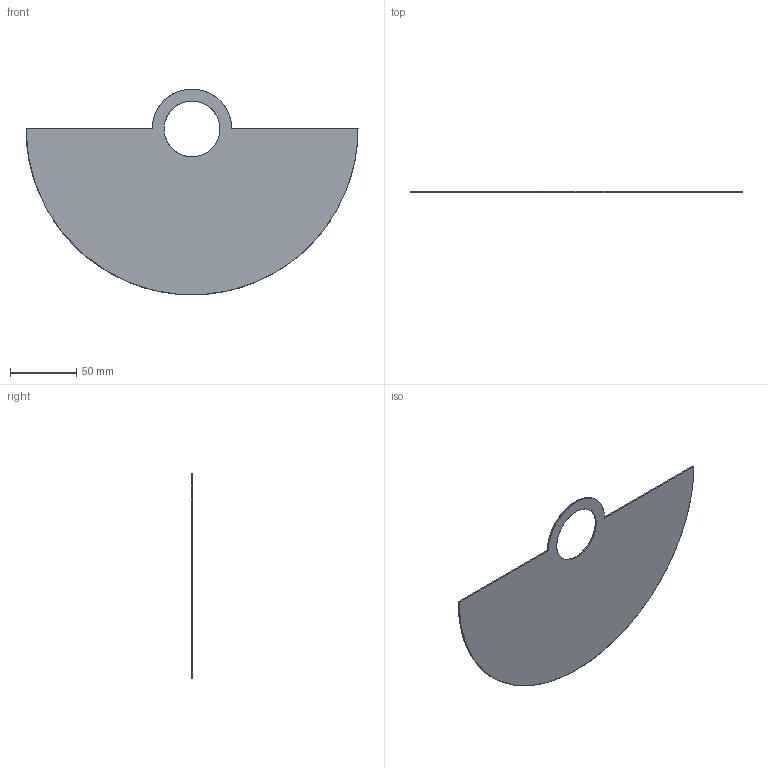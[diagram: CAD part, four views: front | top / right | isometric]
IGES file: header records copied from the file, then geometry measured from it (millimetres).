
Start section: SolidWorks IGES file using analytic representation for surfaces
Global section: file name: C:\Users\adrian\Desktop\MODELADOS USA\HABAN\1088-25.IGS; native system: SolidWorks 2023; preprocessor: SolidWorks 2023; author: adrian; date: 260609.124026; units: millimetre
Bounding box: 250 x 1 x 155 mm (x, y, z)
Surface area: 49952.9 mm2 (no closed solid volume)
Topology: 0 solids, 0 shells, 9 faces, 192 edges, 192 vertices
Faces by surface type: bspline 9
